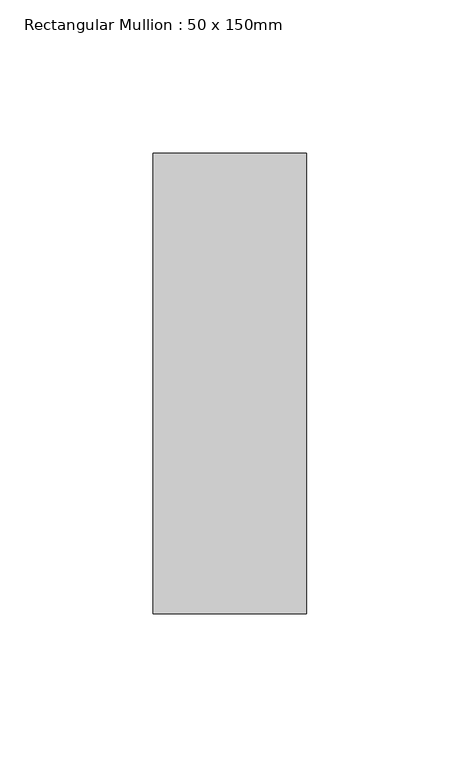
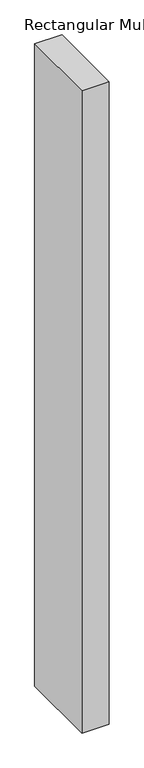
"""IFC4 building model written with IfcOpenShell, lengths in millimetres: member geometry, Rectangular Mullion : 50 x 150mm."""

from ifc_helpers import new_model, si_unit, frame, origin, place, context, project, spatial, polyline, outline, extrude, source, transform, mapped, element, save


def rectangular_mullion_50_x_150mm_2a846207(model_context):
    return source(origin(), model_context, "Body", "SweptSolid", [
        extrude(outline(polyline([(25.0, 75.0), (25.0, -75.0), (-25.0, -75.0), (-25.0, 75.0), (25.0, 75.0)])), frame((0.0, 0.0, -1244.625), z_axis=(0.0, 0.0, 1.0), x_axis=(1.0, 0.0, 0.0)), (0.0, 0.0, 1.0), 1244.625),
    ])


if __name__ == "__main__":
    model = new_model("IFC4")
    model_context = context("Model", 3, world=origin())
    ifc_project = project(units=[si_unit("LENGTHUNIT", "METRE", prefix="MILLI")], contexts=[model_context])
    site = spatial("IfcSite", under=ifc_project)
    building = spatial("IfcBuilding", under=site)
    placement = place(None, origin())
    rectangular_mullion_50_x_150mm_shape = rectangular_mullion_50_x_150mm_2a846207(model_context)
    element("IfcMember", 1, ObjectType="Rectangular Mullion : 50 x 150mm", at=placement, inside=building, context=model_context, shape_type="MappedRepresentation", body=[
        mapped(rectangular_mullion_50_x_150mm_shape, transform((0.0, 0.0, 0.0), x_axis=(1.0, 0.0, 0.0), y_axis=(0.0, 1.0, 0.0), z_axis=(0.0, 0.0, 1.0))),
    ])
    save(model, "model.ifc")
